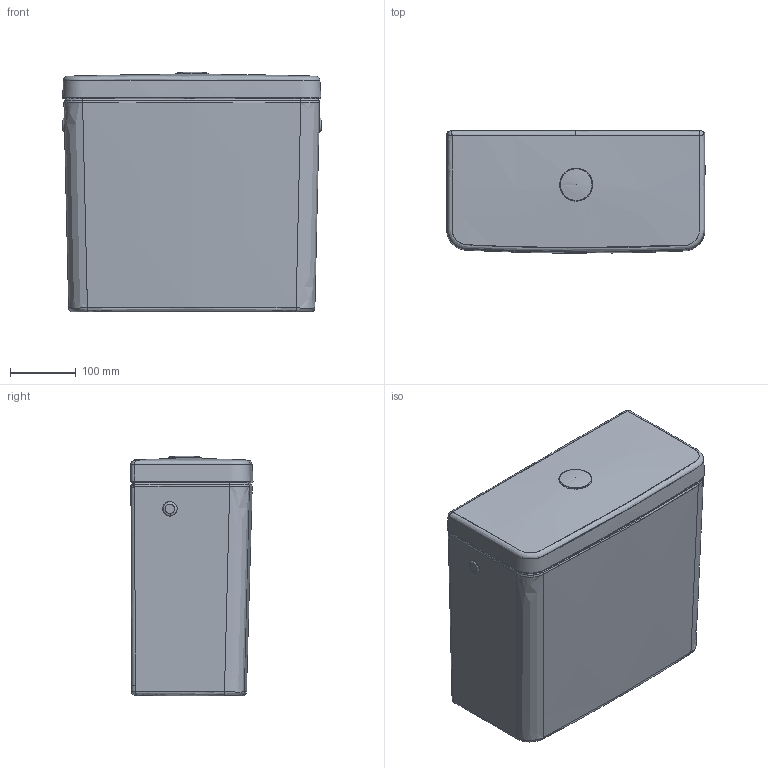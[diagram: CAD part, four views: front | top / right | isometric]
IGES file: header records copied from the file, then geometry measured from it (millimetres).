
Global section: file name: d:\users\matthias.isele\Desktop\planungsdaten_erstellen\Keramik\D-Neo\094410\094410.igs; native system: Rhinoceros ( Sep 13 2016 ); preprocessor: Trout Lake IGES 012 Sep 13 2016; date: 210621.071813; units: millimetre
Bounding box: 394.53 x 186.18 x 365.24 mm (x, y, z)
Surface area: 978678 mm2 (no closed solid volume)
Topology: 0 solids, 0 shells, 159 faces, 1784 edges, 1772 vertices
Faces by surface type: bspline 159
